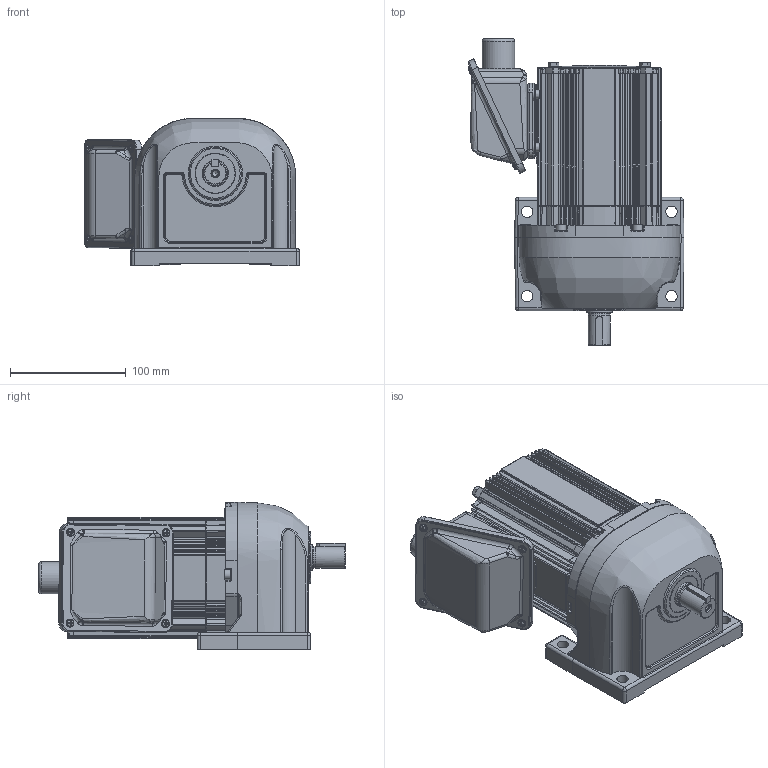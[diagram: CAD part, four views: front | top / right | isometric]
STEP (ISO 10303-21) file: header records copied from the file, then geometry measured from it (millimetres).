
FILE_DESCRIPTION( ( 'Unknown' ), '1' );
FILE_NAME( 'W:/gm/3D-WEB/GV-S/完成品/モータ+減速機/パーツデータ/完成品(GV-S_0.4kw_ブレーキ無_B).stp', 'Unknown', ( 'Unknown' ), ( 'Unknown' ), 'PSStep 11.0', 'Unknown', ' ' );
FILE_SCHEMA( ( 'AUTOMOTIVE_DESIGN { 1 0 10303 214 1 1 1 1 }' ) );
Length unit declared in the file: millimetre
Products named in the file (1): 減速機(GV-S_脚取付0.
Bounding box: 186.74 x 265.07 x 127.74 mm (x, y, z)
Volume: 1704281.5 mm3; surface area: 347161.9 mm2
Topology: 1 solids, 22 shells, 2259 faces, 5810 edges, 3644 vertices
Faces by surface type: plane 895, cylinder 828, bspline 242, torus 203, cone 60, sphere 31
Full cylindrical faces by diameter (mm): 3.3 x4, 3.8 x4, 4 x2, 4.134 x12, 4.5 x8, 4.6 x4, 4.917 x1, 5 x10, 5.5 x10, 5.8 x4, 6 x8, 6.2 x1, 6.5 x2, 7 x4, 8.5 x6, 9.7 x4, 10 x5, 14 x1, 15 x1, 16 x1, 17.5 x1, 18.631 x2, 18.7 x1, 19 x1, 21.7 x1, 22 x2, 22.049 x1, 24.1 x1, 24.7 x1, 25 x1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
Entity records: 128959 total; most frequent: CARTESIAN_POINT 57801, DIRECTION 11259, ORIENTED_EDGE 11034, EDGE_CURVE 5517, AXIS2_PLACEMENT_3D 4509, VERTEX_POINT 3553, EDGE_LOOP 2551, FACE_OUTER_BOUND 2401
